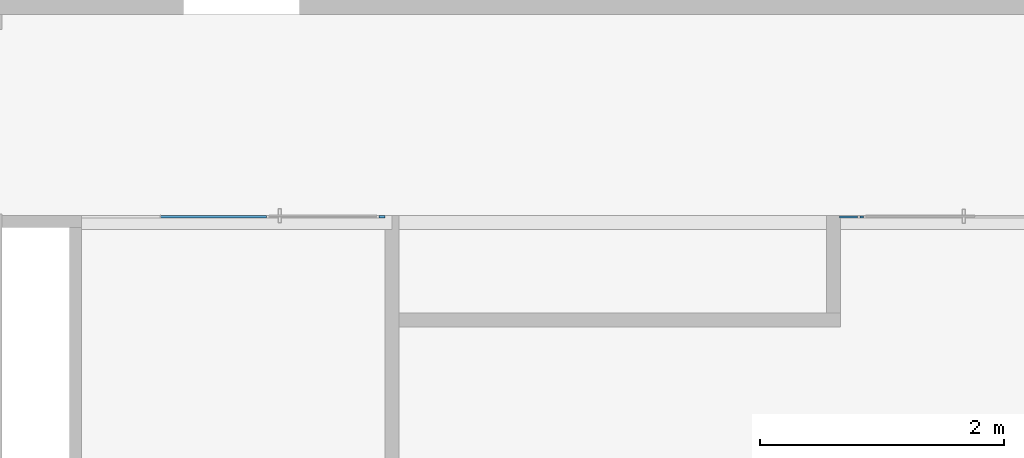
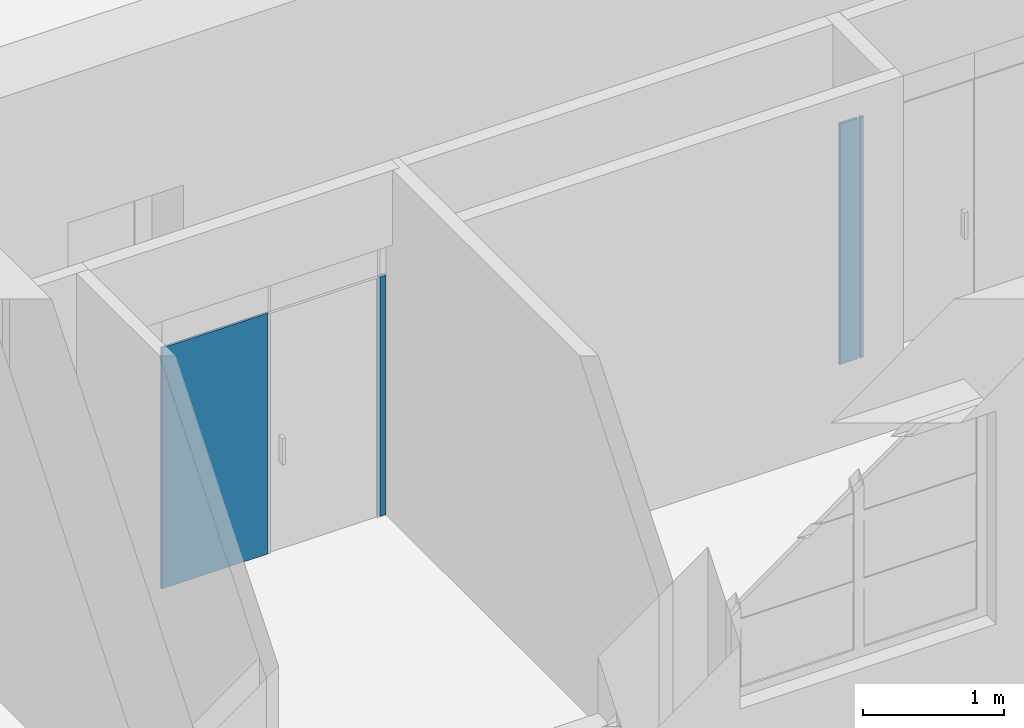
# One storey, part 17 of 66: 4 plates, 2 elements without a shape of their own.
"""IFC2X3 building model written with IfcOpenShell, lengths in millimetres."""

from ifc_helpers import new_model, entity, si_unit, converted_unit, derived_unit, direction, frame, origin, origin_2d_with_axis, place, context, subcontext, project, spatial, rectangle, extrude, source, transform, mapped, material, layer, layer_set, layer_usage, type_object, type_shapes, element, aggregate, save


model = new_model("IFC2X3")

# Units and contexts
model_context = context("Model", 3, precision=0.01, world=origin(), true_north=direction((6.12303176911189e-17, 1.0)))
body_context = subcontext(model_context, "Body", "Model", "MODEL_VIEW")
ifc_project = project(units=[si_unit("LENGTHUNIT", "METRE", prefix="MILLI"), si_unit("AREAUNIT", "SQUARE_METRE"), si_unit("VOLUMEUNIT", "CUBIC_METRE"), converted_unit("PLANEANGLEUNIT", "DEGREE", entity("IfcRatioMeasure", 0.0174532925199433), si_unit("PLANEANGLEUNIT", "RADIAN"), dimensions=[0, 0, 0, 0, 0, 0, 0]), si_unit("MASSUNIT", "GRAM", prefix="KILO"), derived_unit("MASSDENSITYUNIT", [(si_unit("MASSUNIT", "GRAM", prefix="KILO"), 1), (si_unit("LENGTHUNIT", "METRE"), -3)]), si_unit("TIMEUNIT", "SECOND"), si_unit("FREQUENCYUNIT", "HERTZ"), si_unit("THERMODYNAMICTEMPERATUREUNIT", "DEGREE_CELSIUS"), derived_unit("THERMALTRANSMITTANCEUNIT", [(si_unit("MASSUNIT", "GRAM", prefix="KILO"), 1), (si_unit("THERMODYNAMICTEMPERATUREUNIT", "KELVIN"), -1), (si_unit("TIMEUNIT", "SECOND"), -3)]), derived_unit("VOLUMETRICFLOWRATEUNIT", [(si_unit("LENGTHUNIT", "METRE"), 3), (si_unit("TIMEUNIT", "SECOND"), -1)]), si_unit("ELECTRICCURRENTUNIT", "AMPERE"), si_unit("ELECTRICVOLTAGEUNIT", "VOLT"), si_unit("POWERUNIT", "WATT"), si_unit("FORCEUNIT", "NEWTON", prefix="KILO"), si_unit("ILLUMINANCEUNIT", "LUX"), si_unit("LUMINOUSFLUXUNIT", "LUMEN"), si_unit("LUMINOUSINTENSITYUNIT", "CANDELA"), derived_unit("USERDEFINED", [(si_unit("MASSUNIT", "GRAM", prefix="KILO"), -1), (si_unit("LENGTHUNIT", "METRE"), -2), (si_unit("TIMEUNIT", "SECOND"), 3), (si_unit("LUMINOUSFLUXUNIT", "LUMEN"), 1)]), derived_unit("LINEARVELOCITYUNIT", [(si_unit("LENGTHUNIT", "METRE"), 1), (si_unit("TIMEUNIT", "SECOND"), -1)]), si_unit("PRESSUREUNIT", "PASCAL"), derived_unit("USERDEFINED", [(si_unit("LENGTHUNIT", "METRE"), -2), (si_unit("MASSUNIT", "GRAM", prefix="KILO"), 1), (si_unit("TIMEUNIT", "SECOND"), -2)])], contexts=[model_context])

# Site, building, storey
site_placement = place(None, frame((-151.875543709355, 2715.0, 0.0)))
site = spatial("IfcSite", under=ifc_project, at=site_placement, Name="Surface", CompositionType="ELEMENT")
building_placement = place(site_placement, origin())
building = spatial("IfcBuilding", under=site, at=building_placement, CompositionType="ELEMENT")
storey_placement = place(building_placement, frame((0.0, 0.0, 3350.0)))
storey = spatial("IfcBuildingStorey", under=building, at=storey_placement, Name="2 korrus", CompositionType="ELEMENT", Elevation=3350.00000000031)

# Curtain wall, plates
curtain_wall_type_1 = type_object("IfcCurtainWallType", Name="Curtain Wall:Klaassein KLS-09", PredefinedType="NOTDEFINED")
curtain_wall_1_placement = place(storey_placement, frame((0.0, 0.0, -3350.0)))
curtain_wall_1 = element("IfcCurtainWall", 1, at=curtain_wall_1_placement, inside=storey, type_object=curtain_wall_type_1, Name="Curtain Wall:Klaassein KLS-09", ObjectType="Curtain Wall:Klaassein KLS-09")
ifc_material = material(Name="<Unnamed>")
ifc_layer = layer(ifc_material, 20.0)
ifc_layer_set = layer_set([ifc_layer], Name="Curtain Wall:Klaassein KLS-01")
ifc_layer_usage_1 = layer_usage(ifc_layer_set, "AXIS3", "POSITIVE", 0.0)
plate_type_1 = type_object("IfcPlateType", Name="Glazed", PredefinedType="CURTAIN_PANEL", material=ifc_layer_set)
shared_shape_1 = source(origin(), body_context, "Body", "SweptSolid", [
    extrude(rectangle(XDim=20.0, YDim=143.990561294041, at=origin_2d_with_axis()), frame((0.0, 0.0, 0.0), z_axis=(0.0, 0.0, 1.0), x_axis=(0.0, 1.0, 0.0)), (0.0, 0.0, 1.0), 2090.0),
])
type_shapes(plate_type_1, [shared_shape_1])
plate_1_placement = place(curtain_wall_1_placement, frame((13296.560007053, 4352.04493399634, 3350.0)))
plate_1 = element("IfcPlate", 2, at=plate_1_placement, type_object=plate_type_1, material=ifc_layer_usage_1, Name="System Panel:Glazed", ObjectType="Glazed", context=body_context, shape_type="MappedRepresentation", body=[
    mapped(shared_shape_1, transform((0.0, 0.0, 0.0), scale=1.0)),
])
ifc_layer_usage_2 = layer_usage(ifc_layer_set, "AXIS3", "POSITIVE", 0.0)
plate_type_2 = type_object("IfcPlateType", Name="Glazed", PredefinedType="CURTAIN_PANEL", material=ifc_layer_set)
shared_shape_2 = source(origin(), body_context, "Body", "SweptSolid", [
    extrude(rectangle(XDim=20.0, YDim=29.9999999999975, at=origin_2d_with_axis()), frame((0.0, 0.0, 0.0), z_axis=(0.0, 0.0, 1.0), x_axis=(0.0, 1.0, 0.0)), (0.0, 0.0, 1.0), 2090.0),
])
type_shapes(plate_type_2, [shared_shape_2])
plate_2_placement = place(curtain_wall_1_placement, frame((13403.5552877, 4352.04493399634, 3350.0)))
plate_2 = element("IfcPlate", 3, at=plate_2_placement, type_object=plate_type_2, material=ifc_layer_usage_2, Name="System Panel:Glazed", ObjectType="Glazed", context=body_context, shape_type="MappedRepresentation", body=[
    mapped(shared_shape_2, transform((0.0, 0.0, 0.0), scale=1.0)),
])
aggregate(curtain_wall_1, [plate_1, plate_2])

curtain_wall_type_2 = type_object("IfcCurtainWallType", Name="Curtain Wall:Klaassein KLS-08", PredefinedType="NOTDEFINED")
curtain_wall_2_placement = place(storey_placement, frame((0.0, 0.0, -3350.0)))
curtain_wall_2 = element("IfcCurtainWall", 4, at=curtain_wall_2_placement, inside=storey, type_object=curtain_wall_type_2, Name="Curtain Wall:Klaassein KLS-08", ObjectType="Curtain Wall:Klaassein KLS-08")
ifc_layer_usage_3 = layer_usage(ifc_layer_set, "AXIS3", "POSITIVE", 0.0)
plate_type_3 = type_object("IfcPlateType", Name="Glazed", PredefinedType="CURTAIN_PANEL", material=ifc_layer_set)
shared_shape_3 = source(origin(), body_context, "Body", "SweptSolid", [
    extrude(rectangle(XDim=20.0, YDim=869.080118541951, at=origin_2d_with_axis()), frame((0.0, 0.0, 0.0), z_axis=(0.0, 0.0, 1.0), x_axis=(0.0, 1.0, 0.0)), (0.0, 0.0, 1.0), 2090.0),
])
type_shapes(plate_type_3, [shared_shape_3])
plate_3_placement = place(curtain_wall_2_placement, frame((8095.02466713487, 4355.04493399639, 3350.0)))
plate_3 = element("IfcPlate", 5, at=plate_3_placement, type_object=plate_type_3, material=ifc_layer_usage_3, Name="System Panel:Glazed", ObjectType="Glazed", context=body_context, shape_type="MappedRepresentation", body=[
    mapped(shared_shape_3, transform((0.0, 0.0, 0.0), scale=1.0)),
])
ifc_layer_usage_4 = layer_usage(ifc_layer_set, "AXIS3", "POSITIVE", 0.0)
plate_type_4 = type_object("IfcPlateType", Name="Glazed", PredefinedType="CURTAIN_PANEL", material=ifc_layer_set)
shared_shape_4 = source(origin(), body_context, "Body", "SweptSolid", [
    extrude(rectangle(XDim=20.0, YDim=50.0000000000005, at=origin_2d_with_axis()), frame((0.0, 0.0, 0.0), z_axis=(0.0, 0.0, 1.0), x_axis=(0.0, 1.0, 0.0)), (0.0, 0.0, 1.0), 2080.0),
])
type_shapes(plate_type_4, [shared_shape_4])
plate_4_placement = place(curtain_wall_2_placement, frame((9474.56472640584, 4355.0449339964, 3350.0)))
plate_4 = element("IfcPlate", 6, at=plate_4_placement, type_object=plate_type_4, material=ifc_layer_usage_4, Name="System Panel:Glazed", ObjectType="Glazed", context=body_context, shape_type="MappedRepresentation", body=[
    mapped(shared_shape_4, transform((0.0, 0.0, 0.0), scale=1.0)),
])
aggregate(curtain_wall_2, [plate_3, plate_4])

save(model, "model.ifc")
